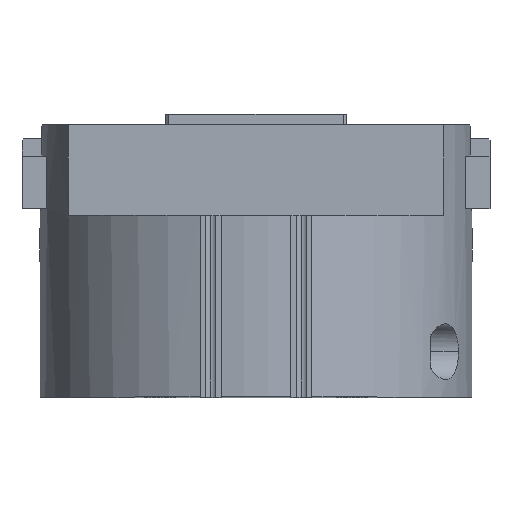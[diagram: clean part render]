
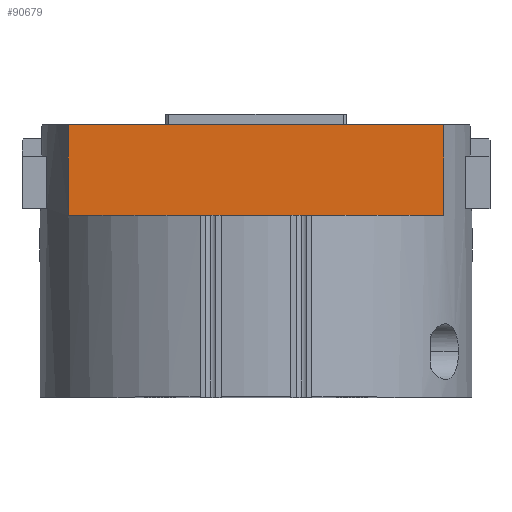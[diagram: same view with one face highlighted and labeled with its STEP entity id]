
A CAD part, top view. The second image highlights one B-rep face of the part: STEP entity #90679.
In plain terms, the highlighted planar face has unit normal (0, 0, 1).
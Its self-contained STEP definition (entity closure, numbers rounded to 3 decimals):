
#1569 = AXIS2_PLACEMENT_3D ( 'NONE', #97590, #52262, #6912 ) ;
#3765 = VERTEX_POINT ( 'NONE', #22291 ) ;
#6624 = CARTESIAN_POINT ( 'NONE',  ( 53.694, 78., 31. ) ) ;
#6842 = ORIENTED_EDGE ( 'NONE', *, *, #17985, .F. ) ;
#6912 = DIRECTION ( 'NONE',  ( -1., 0., 0. ) ) ;
#7334 = DIRECTION ( 'NONE',  ( 0., 1., 0. ) ) ;
#10797 = ORIENTED_EDGE ( 'NONE', *, *, #93983, .F. ) ;
#13667 = CARTESIAN_POINT ( 'NONE',  ( 53.694, 52., 31. ) ) ;
#17506 = VERTEX_POINT ( 'NONE', #13667 ) ;
#17886 = VECTOR ( 'NONE', #59581, 1000. ) ;
#17985 = EDGE_CURVE ( 'NONE', #3765, #17506, #58217, .T. ) ;
#19743 = LINE ( 'NONE', #91281, #59976 ) ;
#20061 = EDGE_CURVE ( 'NONE', #97825, #3765, #77086, .T. ) ;
#22198 = ORIENTED_EDGE ( 'NONE', *, *, #20061, .F. ) ;
#22291 = CARTESIAN_POINT ( 'NONE',  ( 53.694, 78., 31. ) ) ;
#29381 = LINE ( 'NONE', #45035, #87478 ) ;
#33884 = FACE_OUTER_BOUND ( 'NONE', #42004, .T. ) ;
#34540 = EDGE_CURVE ( 'NONE', #75696, #97825, #29381, .T. ) ;
#41984 = CARTESIAN_POINT ( 'NONE',  ( -53.694, 52., 31. ) ) ;
#42004 = EDGE_LOOP ( 'NONE', ( #80765, #10797, #6842, #22198 ) ) ;
#43478 = CARTESIAN_POINT ( 'NONE',  ( 0., 78., 31. ) ) ;
#44612 = PLANE ( 'NONE',  #1569 ) ;
#45035 = CARTESIAN_POINT ( 'NONE',  ( -53.694, 78., 31. ) ) ;
#45916 = DIRECTION ( 'NONE',  ( -1., 0., 0. ) ) ;
#52262 = DIRECTION ( 'NONE',  ( 0., 0., -1. ) ) ;
#58217 = LINE ( 'NONE', #6624, #17886 ) ;
#59581 = DIRECTION ( 'NONE',  ( 0., -1., 0. ) ) ;
#59976 = VECTOR ( 'NONE', #45916, 1000. ) ;
#75696 = VERTEX_POINT ( 'NONE', #41984 ) ;
#77086 = LINE ( 'NONE', #43478, #97203 ) ;
#80765 = ORIENTED_EDGE ( 'NONE', *, *, #34540, .F. ) ;
#87478 = VECTOR ( 'NONE', #7334, 1000. ) ;
#90679 = ADVANCED_FACE ( 'NONE', ( #33884 ), #44612, .F. ) ;
#91281 = CARTESIAN_POINT ( 'NONE',  ( 0., 52., 31. ) ) ;
#93983 = EDGE_CURVE ( 'NONE', #17506, #75696, #19743, .T. ) ;
#96092 = CARTESIAN_POINT ( 'NONE',  ( -53.694, 78., 31. ) ) ;
#96435 = DIRECTION ( 'NONE',  ( 1., 0., 0. ) ) ;
#97203 = VECTOR ( 'NONE', #96435, 1000. ) ;
#97590 = CARTESIAN_POINT ( 'NONE',  ( -53.694, 52., 31. ) ) ;
#97825 = VERTEX_POINT ( 'NONE', #96092 ) ;
